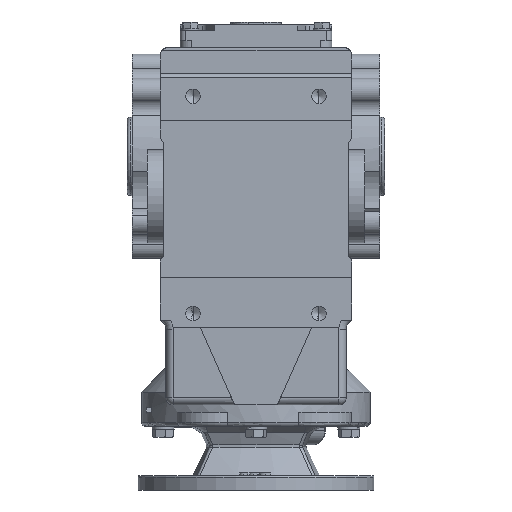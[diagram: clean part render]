
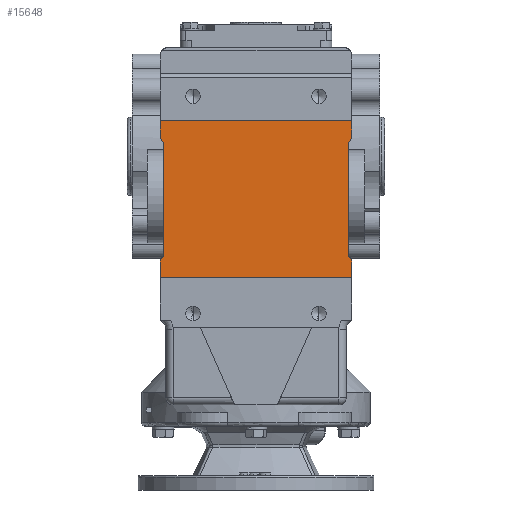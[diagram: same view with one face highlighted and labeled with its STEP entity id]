
A CAD part, front view. The second image highlights one B-rep face of the part: STEP entity #15648.
In plain terms, the highlighted planar face has unit normal (0, -1, 0).
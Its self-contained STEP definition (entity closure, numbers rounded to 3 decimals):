
#2112 = AXIS2_PLACEMENT_3D ( 'NONE', #18033, #18034, #18035 ) ;
#2149 = AXIS2_PLACEMENT_3D ( 'NONE', #19020, #19021, #19022 ) ;
#2165 = AXIS2_PLACEMENT_3D ( 'NONE', #19282, #19283, #19284 ) ;
#2166 = AXIS2_PLACEMENT_3D ( 'NONE', #19287, #19288, #19290 ) ;
#2815 = CARTESIAN_POINT ( 'NONE',  ( 65., -136., 10. ) ) ;
#2824 = CARTESIAN_POINT ( 'NONE',  ( 67., -136., 14. ) ) ;
#2883 = CARTESIAN_POINT ( 'NONE',  ( -67., -136., 25. ) ) ;
#2892 = CARTESIAN_POINT ( 'NONE',  ( -67., -136., 14. ) ) ;
#2894 = CARTESIAN_POINT ( 'NONE',  ( 67., -136., 25. ) ) ;
#2895 = CARTESIAN_POINT ( 'NONE',  ( -65., -136., -70. ) ) ;
#2897 = CARTESIAN_POINT ( 'NONE',  ( -65., -136., 10. ) ) ;
#2899 = CARTESIAN_POINT ( 'NONE',  ( -67., -136., -74. ) ) ;
#5204 = CARTESIAN_POINT ( 'NONE',  ( 67., -136., -85. ) ) ;
#8917 = CARTESIAN_POINT ( 'NONE',  ( -67., -136., -85. ) ) ;
#8925 = DIRECTION ( 'NONE',  ( 1., 0., 0. ) ) ;
#9196 = LINE ( 'NONE', #8917, #9203 ) ;
#9203 = VECTOR ( 'NONE', #8925, 1000. ) ;
#10368 = CARTESIAN_POINT ( 'NONE',  ( 65., -136., -70. ) ) ;
#10373 = CARTESIAN_POINT ( 'NONE',  ( 67., -136., -74. ) ) ;
#15648 = ADVANCED_FACE ( 'NONE', ( #41295 ), #44998, .F. ) ;
#16765 = CIRCLE ( 'NONE', #2112, 5. ) ;
#16784 = LINE ( 'NONE', #18056, #16787 ) ;
#16787 = VECTOR ( 'NONE', #18057, 1000. ) ;
#16863 = LINE ( 'NONE', #19004, #16866 ) ;
#16866 = VECTOR ( 'NONE', #19005, 1000. ) ;
#18033 = CARTESIAN_POINT ( 'NONE',  ( 62., -136., -74. ) ) ;
#18034 = DIRECTION ( 'NONE',  ( 0., -1., 0. ) ) ;
#18035 = DIRECTION ( 'NONE',  ( 0., 0., 1. ) ) ;
#18056 = CARTESIAN_POINT ( 'NONE',  ( 67., -136., -70. ) ) ;
#18057 = DIRECTION ( 'NONE',  ( 0., 0., 1. ) ) ;
#18836 = ORIENTED_EDGE ( 'NONE', *, *, #32493, .T. ) ;
#18837 = ORIENTED_EDGE ( 'NONE', *, *, #32482, .T. ) ;
#18838 = ORIENTED_EDGE ( 'NONE', *, *, #32571, .T. ) ;
#18839 = ORIENTED_EDGE ( 'NONE', *, *, #32577, .T. ) ;
#18840 = ORIENTED_EDGE ( 'NONE', *, *, #32692, .T. ) ;
#18841 = ORIENTED_EDGE ( 'NONE', *, *, #32691, .T. ) ;
#18842 = ORIENTED_EDGE ( 'NONE', *, *, #32693, .T. ) ;
#18843 = ORIENTED_EDGE ( 'NONE', *, *, #32694, .T. ) ;
#18844 = ORIENTED_EDGE ( 'NONE', *, *, #32695, .F. ) ;
#18845 = ORIENTED_EDGE ( 'NONE', *, *, #32696, .T. ) ;
#18846 = ORIENTED_EDGE ( 'NONE', *, *, #32697, .T. ) ;
#18847 = ORIENTED_EDGE ( 'NONE', *, *, #28830, .T. ) ;
#19004 = CARTESIAN_POINT ( 'NONE',  ( 65., -136., 6. ) ) ;
#19005 = DIRECTION ( 'NONE',  ( 0., 0., 1. ) ) ;
#19020 = CARTESIAN_POINT ( 'NONE',  ( 62., -136., 14. ) ) ;
#19021 = DIRECTION ( 'NONE',  ( 0., -1., 0. ) ) ;
#19022 = DIRECTION ( 'NONE',  ( 0., 0., 1. ) ) ;
#19264 = DIRECTION ( 'NONE',  ( 0., 0., 1. ) ) ;
#19268 = CARTESIAN_POINT ( 'NONE',  ( -65., -136., 6. ) ) ;
#19273 = CARTESIAN_POINT ( 'NONE',  ( -67., -136., 25. ) ) ;
#19275 = DIRECTION ( 'NONE',  ( -1., 0., 0. ) ) ;
#19276 = CARTESIAN_POINT ( 'NONE',  ( 67., -136., 25. ) ) ;
#19277 = DIRECTION ( 'NONE',  ( 0., 0., 1. ) ) ;
#19278 = CARTESIAN_POINT ( 'NONE',  ( -67., -136., 25. ) ) ;
#19279 = DIRECTION ( 'NONE',  ( 0., 0., -1. ) ) ;
#19280 = CARTESIAN_POINT ( 'NONE',  ( -67., -136., -70. ) ) ;
#19281 = DIRECTION ( 'NONE',  ( 0., 0., -1. ) ) ;
#19282 = CARTESIAN_POINT ( 'NONE',  ( -62., -136., 14. ) ) ;
#19283 = DIRECTION ( 'NONE',  ( 0., -1., 0. ) ) ;
#19284 = DIRECTION ( 'NONE',  ( 0., 0., 1. ) ) ;
#19287 = CARTESIAN_POINT ( 'NONE',  ( -62., -136., -74. ) ) ;
#19288 = DIRECTION ( 'NONE',  ( 0., -1., 0. ) ) ;
#19290 = DIRECTION ( 'NONE',  ( 0., 0., 1. ) ) ;
#19956 = CIRCLE ( 'NONE', #2149, 5. ) ;
#20237 = LINE ( 'NONE', #19273, #20240 ) ;
#20239 = LINE ( 'NONE', #19276, #20243 ) ;
#20240 = VECTOR ( 'NONE', #19275, 1000. ) ;
#20241 = LINE ( 'NONE', #19278, #20246 ) ;
#20243 = VECTOR ( 'NONE', #19277, 1000. ) ;
#20245 = CIRCLE ( 'NONE', #2165, 5. ) ;
#20246 = VECTOR ( 'NONE', #19279, 1000. ) ;
#20248 = LINE ( 'NONE', #19268, #20250 ) ;
#20249 = CIRCLE ( 'NONE', #2166, 5. ) ;
#20250 = VECTOR ( 'NONE', #19264, 1000. ) ;
#20251 = LINE ( 'NONE', #19280, #20254 ) ;
#20254 = VECTOR ( 'NONE', #19281, 1000. ) ;
#23102 = CARTESIAN_POINT ( 'NONE',  ( -67., -136., -85. ) ) ;
#23874 = VERTEX_POINT ( 'NONE', #2815 ) ;
#23883 = VERTEX_POINT ( 'NONE', #2824 ) ;
#23942 = VERTEX_POINT ( 'NONE', #2883 ) ;
#23951 = VERTEX_POINT ( 'NONE', #2892 ) ;
#23953 = VERTEX_POINT ( 'NONE', #2894 ) ;
#23954 = VERTEX_POINT ( 'NONE', #2895 ) ;
#23956 = VERTEX_POINT ( 'NONE', #2897 ) ;
#23958 = VERTEX_POINT ( 'NONE', #2899 ) ;
#27339 = VERTEX_POINT ( 'NONE', #5204 ) ;
#28830 = EDGE_CURVE ( 'NONE', #33431, #27339, #9196, .T. ) ;
#30416 = EDGE_LOOP ( 'NONE', ( #18836, #18837, #18838, #18839, #18840, #18841, #18842, #18843, #18844, #18845, #18846, #18847 ) ) ;
#31114 = VERTEX_POINT ( 'NONE', #10368 ) ;
#31119 = VERTEX_POINT ( 'NONE', #10373 ) ;
#32482 = EDGE_CURVE ( 'NONE', #31119, #31114, #16765, .T. ) ;
#32493 = EDGE_CURVE ( 'NONE', #27339, #31119, #16784, .T. ) ;
#32571 = EDGE_CURVE ( 'NONE', #31114, #23874, #16863, .T. ) ;
#32577 = EDGE_CURVE ( 'NONE', #23874, #23883, #19956, .T. ) ;
#32691 = EDGE_CURVE ( 'NONE', #23953, #23942, #20237, .T. ) ;
#32692 = EDGE_CURVE ( 'NONE', #23883, #23953, #20239, .T. ) ;
#32693 = EDGE_CURVE ( 'NONE', #23942, #23951, #20241, .T. ) ;
#32694 = EDGE_CURVE ( 'NONE', #23951, #23956, #20245, .T. ) ;
#32695 = EDGE_CURVE ( 'NONE', #23954, #23956, #20248, .T. ) ;
#32696 = EDGE_CURVE ( 'NONE', #23954, #23958, #20249, .T. ) ;
#32697 = EDGE_CURVE ( 'NONE', #23958, #33431, #20251, .T. ) ;
#33431 = VERTEX_POINT ( 'NONE', #23102 ) ;
#41295 = FACE_OUTER_BOUND ( 'NONE', #30416, .T. ) ;
#43736 = AXIS2_PLACEMENT_3D ( 'NONE', #44991, #45000, #45001 ) ;
#44991 = CARTESIAN_POINT ( 'NONE',  ( 86.5, -136., -66. ) ) ;
#44998 = PLANE ( 'NONE',  #43736 ) ;
#45000 = DIRECTION ( 'NONE',  ( 0., 1., 0. ) ) ;
#45001 = DIRECTION ( 'NONE',  ( 0., 0., 1. ) ) ;
